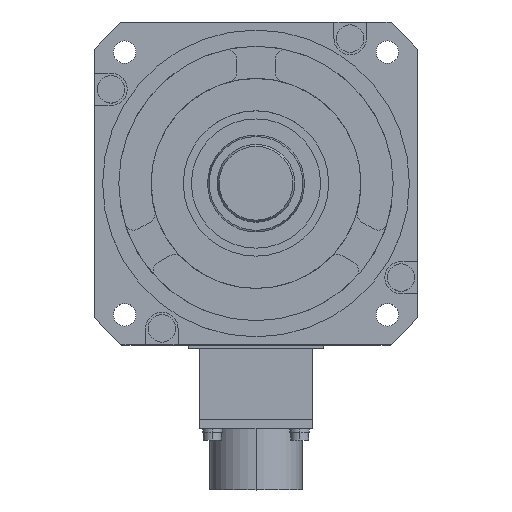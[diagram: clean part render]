
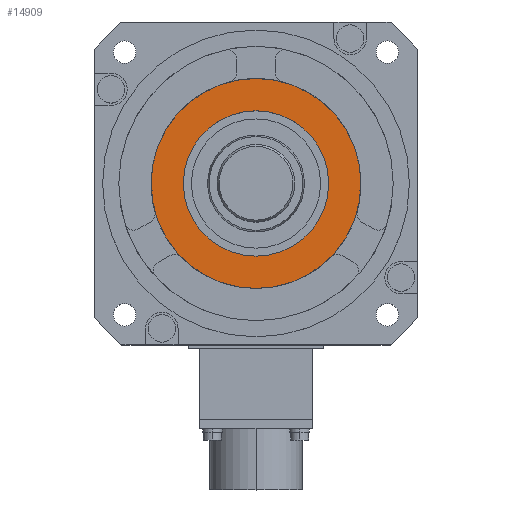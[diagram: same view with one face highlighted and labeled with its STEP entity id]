
A CAD part, top view. The second image highlights one B-rep face of the part: STEP entity #14909.
In plain terms, the highlighted planar face has unit normal (0, 0, 1).
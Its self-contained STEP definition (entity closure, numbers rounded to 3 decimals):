
#822 = CARTESIAN_POINT ( 'NONE',  ( 0., 0., 3. ) ) ;
#890 = CARTESIAN_POINT ( 'NONE',  ( 0., 0., 3. ) ) ;
#898 = DIRECTION ( 'NONE',  ( 0., 0., -1. ) ) ;
#1837 = DIRECTION ( 'NONE',  ( -1., 0., 0. ) ) ;
#2032 = AXIS2_PLACEMENT_3D ( 'NONE', #890, #10645, #2369 ) ;
#2226 = ORIENTED_EDGE ( 'NONE', *, *, #2990, .T. ) ;
#2369 = DIRECTION ( 'NONE',  ( -1., 0., 0. ) ) ;
#2939 = CARTESIAN_POINT ( 'NONE',  ( -22.5, 0., 3. ) ) ;
#2990 = EDGE_CURVE ( 'NONE', #13417, #7153, #15669, .T. ) ;
#3318 = CARTESIAN_POINT ( 'NONE',  ( 0., 0., 3. ) ) ;
#4857 = VERTEX_POINT ( 'NONE', #9028 ) ;
#5361 = AXIS2_PLACEMENT_3D ( 'NONE', #3318, #14932, #1837 ) ;
#6112 = FACE_OUTER_BOUND ( 'NONE', #19183, .T. ) ;
#7153 = VERTEX_POINT ( 'NONE', #2939 ) ;
#7183 = AXIS2_PLACEMENT_3D ( 'NONE', #20162, #15298, #12085 ) ;
#7535 = CARTESIAN_POINT ( 'NONE',  ( 0., 0., 3. ) ) ;
#7747 = ORIENTED_EDGE ( 'NONE', *, *, #12238, .F. ) ;
#8764 = AXIS2_PLACEMENT_3D ( 'NONE', #822, #15279, #15138 ) ;
#9028 = CARTESIAN_POINT ( 'NONE',  ( -32.5, 0., 3. ) ) ;
#9832 = EDGE_LOOP ( 'NONE', ( #15955, #2226 ) ) ;
#10645 = DIRECTION ( 'NONE',  ( 0., 0., -1. ) ) ;
#11743 = PLANE ( 'NONE',  #7183 ) ;
#12085 = DIRECTION ( 'NONE',  ( 1., 0., 0. ) ) ;
#12164 = CARTESIAN_POINT ( 'NONE',  ( 22.5, 0., 3. ) ) ;
#12212 = DIRECTION ( 'NONE',  ( -1., 0., 0. ) ) ;
#12214 = CIRCLE ( 'NONE', #18602, 32.5 ) ;
#12238 = EDGE_CURVE ( 'NONE', #4857, #15719, #13032, .T. ) ;
#13032 = CIRCLE ( 'NONE', #8764, 32.5 ) ;
#13417 = VERTEX_POINT ( 'NONE', #12164 ) ;
#14750 = FACE_BOUND ( 'NONE', #9832, .T. ) ;
#14909 = ADVANCED_FACE ( 'NONE', ( #6112, #14750 ), #11743, .T. ) ;
#14932 = DIRECTION ( 'NONE',  ( 0., 0., -1. ) ) ;
#15138 = DIRECTION ( 'NONE',  ( -1., 0., 0. ) ) ;
#15279 = DIRECTION ( 'NONE',  ( 0., 0., -1. ) ) ;
#15298 = DIRECTION ( 'NONE',  ( 0., 0., 1. ) ) ;
#15571 = EDGE_CURVE ( 'NONE', #7153, #13417, #16511, .T. ) ;
#15669 = CIRCLE ( 'NONE', #5361, 22.5 ) ;
#15719 = VERTEX_POINT ( 'NONE', #20714 ) ;
#15955 = ORIENTED_EDGE ( 'NONE', *, *, #15571, .T. ) ;
#16511 = CIRCLE ( 'NONE', #2032, 22.5 ) ;
#18602 = AXIS2_PLACEMENT_3D ( 'NONE', #7535, #898, #12212 ) ;
#19183 = EDGE_LOOP ( 'NONE', ( #7747, #19531 ) ) ;
#19531 = ORIENTED_EDGE ( 'NONE', *, *, #20883, .F. ) ;
#20162 = CARTESIAN_POINT ( 'NONE',  ( 0., 0., 3. ) ) ;
#20714 = CARTESIAN_POINT ( 'NONE',  ( 32.5, 0., 3. ) ) ;
#20883 = EDGE_CURVE ( 'NONE', #15719, #4857, #12214, .T. ) ;
